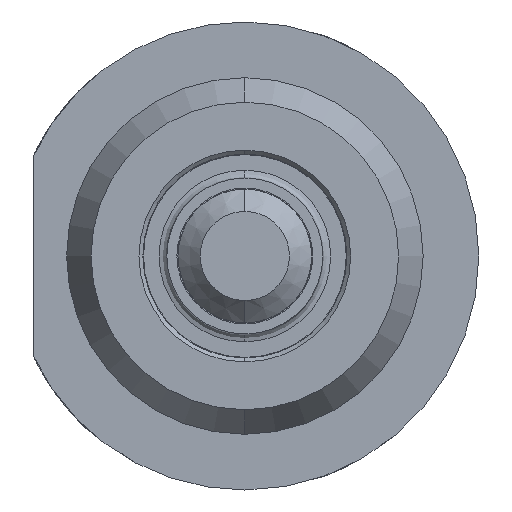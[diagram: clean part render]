
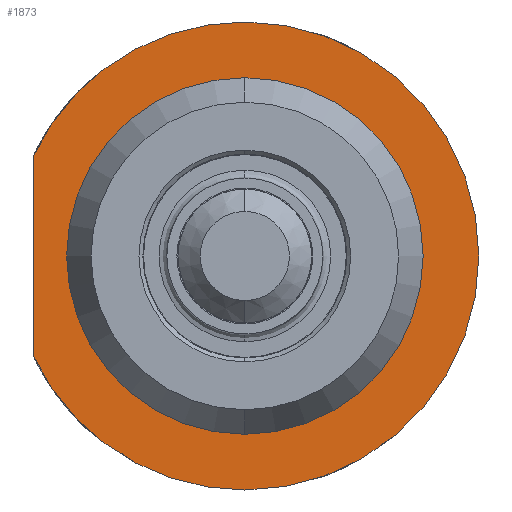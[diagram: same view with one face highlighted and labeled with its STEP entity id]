
A CAD part, left-side view. The second image highlights one B-rep face of the part: STEP entity #1873.
In plain terms, the highlighted planar face has unit normal (-1, 0, 0).
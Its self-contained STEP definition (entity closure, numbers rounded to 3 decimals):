
#24 = ORIENTED_EDGE ( 'NONE', *, *, #1775, .F. ) ;
#25 = ORIENTED_EDGE ( 'NONE', *, *, #8036, .F. ) ;
#26 = ORIENTED_EDGE ( 'NONE', *, *, #8039, .F. ) ;
#27 = ORIENTED_EDGE ( 'NONE', *, *, #3416, .T. ) ;
#28 = ORIENTED_EDGE ( 'NONE', *, *, #1769, .T. ) ;
#29 = ORIENTED_EDGE ( 'NONE', *, *, #8040, .T. ) ;
#446 = CARTESIAN_POINT ( 'NONE',  ( 18., 9.5, 4.472 ) ) ;
#749 = CARTESIAN_POINT ( 'NONE',  ( 18., 0., 0. ) ) ;
#750 = DIRECTION ( 'NONE',  ( -1., 0., 0. ) ) ;
#751 = DIRECTION ( 'NONE',  ( 0., 0., -1. ) ) ;
#772 = CARTESIAN_POINT ( 'NONE',  ( 18., 0., 0. ) ) ;
#773 = DIRECTION ( 'NONE',  ( -1., 0., 0. ) ) ;
#774 = DIRECTION ( 'NONE',  ( 0., 0., 1. ) ) ;
#1139 = FACE_BOUND ( 'NONE', #8217, .T. ) ;
#1147 = FACE_OUTER_BOUND ( 'NONE', #8216, .T. ) ;
#1769 = EDGE_CURVE ( 'NONE', #7223, #7499, #8740, .T. ) ;
#1775 = EDGE_CURVE ( 'NONE', #7494, #7498, #8755, .T. ) ;
#1873 = ADVANCED_FACE ( 'NONE', ( #1139, #1147 ), #9052, .F. ) ;
#3227 = VERTEX_POINT ( 'NONE', #446 ) ;
#3416 = EDGE_CURVE ( 'NONE', #7224, #7223, #3610, .T. ) ;
#3610 = CIRCLE ( 'NONE', #5136, 10.5 ) ;
#3826 = CIRCLE ( 'NONE', #5274, 10.5 ) ;
#3838 = CIRCLE ( 'NONE', #5271, 8. ) ;
#3841 = LINE ( 'NONE', #6289, #3843 ) ;
#3843 = VECTOR ( 'NONE', #6290, 1000. ) ;
#4206 = CARTESIAN_POINT ( 'NONE',  ( 18., 0., 0. ) ) ;
#4207 = DIRECTION ( 'NONE',  ( -1., 0., 0. ) ) ;
#4208 = DIRECTION ( 'NONE',  ( 0., 0., -1. ) ) ;
#4224 = CARTESIAN_POINT ( 'NONE',  ( 18., 0., -10.5 ) ) ;
#4236 = CARTESIAN_POINT ( 'NONE',  ( 18., 9.5, -4.472 ) ) ;
#4296 = CARTESIAN_POINT ( 'NONE',  ( 18., 0., 8. ) ) ;
#4302 = CARTESIAN_POINT ( 'NONE',  ( 18., 0., -8. ) ) ;
#4303 = CARTESIAN_POINT ( 'NONE',  ( 18., 0., 10.5 ) ) ;
#5136 = AXIS2_PLACEMENT_3D ( 'NONE', #4206, #4207, #4208 ) ;
#5271 = AXIS2_PLACEMENT_3D ( 'NONE', #6286, #6287, #6288 ) ;
#5274 = AXIS2_PLACEMENT_3D ( 'NONE', #6299, #6300, #6301 ) ;
#5320 = AXIS2_PLACEMENT_3D ( 'NONE', #749, #750, #751 ) ;
#5323 = AXIS2_PLACEMENT_3D ( 'NONE', #772, #773, #774 ) ;
#5402 = AXIS2_PLACEMENT_3D ( 'NONE', #9054, #9059, #9060 ) ;
#6286 = CARTESIAN_POINT ( 'NONE',  ( 18., 0., 0. ) ) ;
#6287 = DIRECTION ( 'NONE',  ( -1., 0., 0. ) ) ;
#6288 = DIRECTION ( 'NONE',  ( 0., 0., 1. ) ) ;
#6289 = CARTESIAN_POINT ( 'NONE',  ( 18., 9.5, 0. ) ) ;
#6290 = DIRECTION ( 'NONE',  ( 0., 0., 1. ) ) ;
#6299 = CARTESIAN_POINT ( 'NONE',  ( 18., 0., 0. ) ) ;
#6300 = DIRECTION ( 'NONE',  ( -1., 0., 0. ) ) ;
#6301 = DIRECTION ( 'NONE',  ( 0., 0., -1. ) ) ;
#7223 = VERTEX_POINT ( 'NONE', #4224 ) ;
#7224 = VERTEX_POINT ( 'NONE', #4236 ) ;
#7494 = VERTEX_POINT ( 'NONE', #4296 ) ;
#7498 = VERTEX_POINT ( 'NONE', #4302 ) ;
#7499 = VERTEX_POINT ( 'NONE', #4303 ) ;
#8036 = EDGE_CURVE ( 'NONE', #7498, #7494, #3838, .T. ) ;
#8039 = EDGE_CURVE ( 'NONE', #7224, #3227, #3841, .T. ) ;
#8040 = EDGE_CURVE ( 'NONE', #7499, #3227, #3826, .T. ) ;
#8216 = EDGE_LOOP ( 'NONE', ( #26, #27, #28, #29 ) ) ;
#8217 = EDGE_LOOP ( 'NONE', ( #24, #25 ) ) ;
#8740 = CIRCLE ( 'NONE', #5320, 10.5 ) ;
#8755 = CIRCLE ( 'NONE', #5323, 8. ) ;
#9052 = PLANE ( 'NONE',  #5402 ) ;
#9054 = CARTESIAN_POINT ( 'NONE',  ( 18., -8., 0. ) ) ;
#9059 = DIRECTION ( 'NONE',  ( 1., 0., 0. ) ) ;
#9060 = DIRECTION ( 'NONE',  ( 0., 0., -1. ) ) ;
